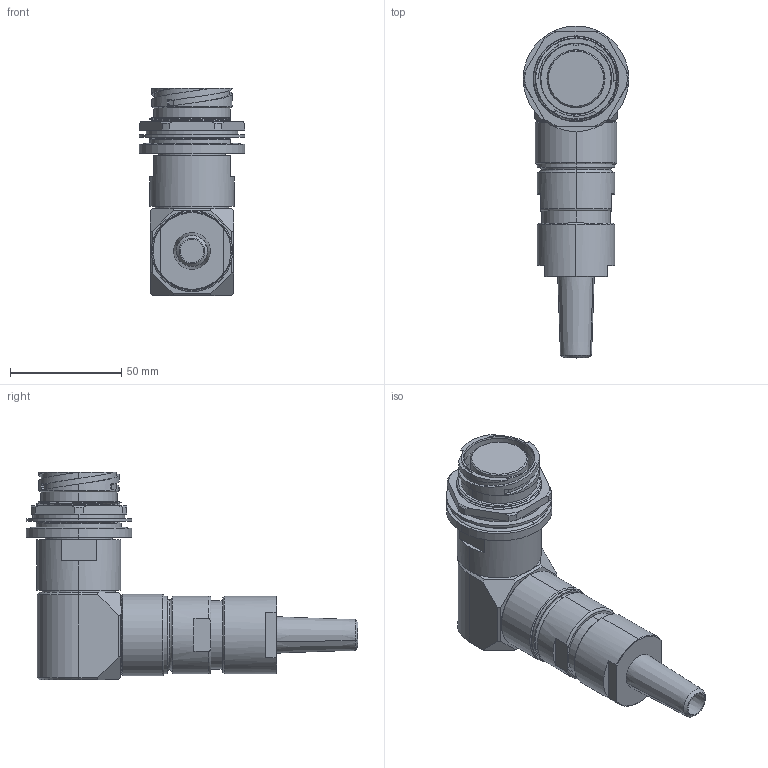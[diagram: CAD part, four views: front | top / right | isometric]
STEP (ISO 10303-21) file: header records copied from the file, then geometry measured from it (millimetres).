
FILE_DESCRIPTION (( 'STEP AP214' ), '1' );
FILE_NAME ('QLINK90-RJBX-21XX-SXXX-RA.STEP', '2025-12-17T15:35:48', ( '' ), ( '' ), 'SwSTEP 2.0', 'SolidWorks 2024', '' );
FILE_SCHEMA (( 'AUTOMOTIVE_DESIGN' ));
Length unit declared in the file: millimetre
Products named in the file (1): QLINK90-RJBX-21XX-SXXX-RA
Bounding box: 47.37 x 148.92 x 93.22 mm (x, y, z)
Volume: 173809.1 mm3; surface area: 39209.4 mm2
Topology: 2 solids, 4 shells, 309 faces, 783 edges, 503 vertices
Faces by surface type: cylinder 88, plane 82, cone 63, bspline 53, torus 23
Entity records: 23592 total; most frequent: CARTESIAN_POINT 16684, ORIENTED_EDGE 1566, DIRECTION 1307, EDGE_CURVE 783, AXIS2_PLACEMENT_3D 530, VERTEX_POINT 503, EDGE_LOOP 340, ADVANCED_FACE 309
